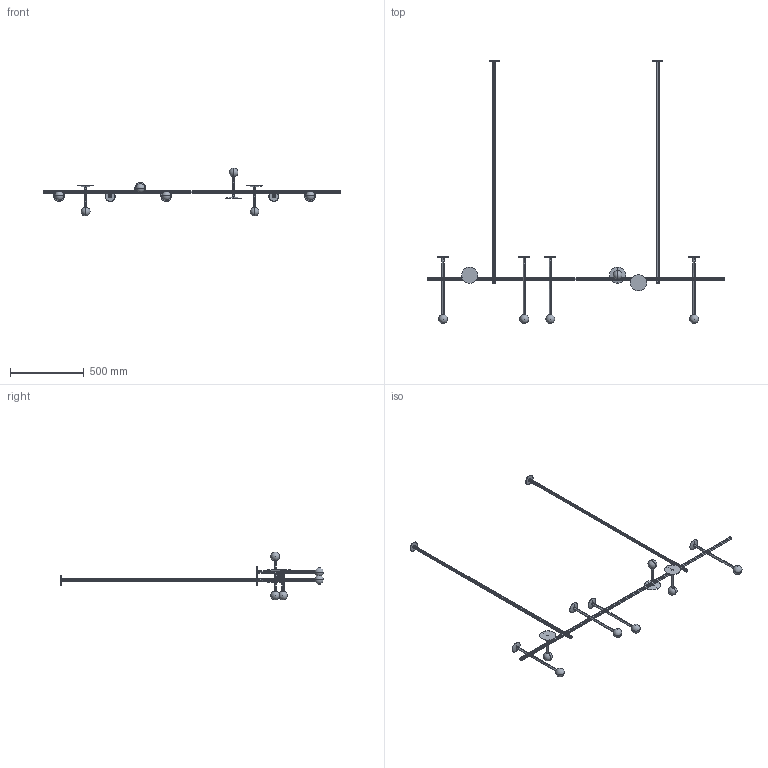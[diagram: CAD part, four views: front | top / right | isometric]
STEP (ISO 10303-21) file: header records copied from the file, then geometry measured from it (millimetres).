
FILE_DESCRIPTION (( 'STEP AP214' ), '1' );
FILE_NAME ('Gantry C Lightweight.STEP', '2021-09-16T02:34:46', ( '' ), ( '' ), 'SwSTEP 2.0', 'SolidWorks 2017', '' );
FILE_SCHEMA (( 'AUTOMOTIVE_DESIGN' ));
Length unit declared in the file: millimetre
Products named in the file (1): Gantry C Lightweight
Bounding box: 2010 x 1783.63 x 325.35 mm (x, y, z)
Volume: 1705497.7 mm3; surface area: 1280381.5 mm2
Topology: 51 solids, 51 shells, 902 faces, 2307 edges, 1452 vertices
Faces by surface type: cylinder 424, plane 292, torus 84, cone 74, sphere 28
Entity records: 40257 total; most frequent: CARTESIAN_POINT 7690, DIRECTION 5001, ORIENTED_EDGE 4418, EDGE_CURVE 2209, AXIS2_PLACEMENT_3D 2065, VERTEX_POINT 1410, CIRCLE 1162, EDGE_LOOP 985
